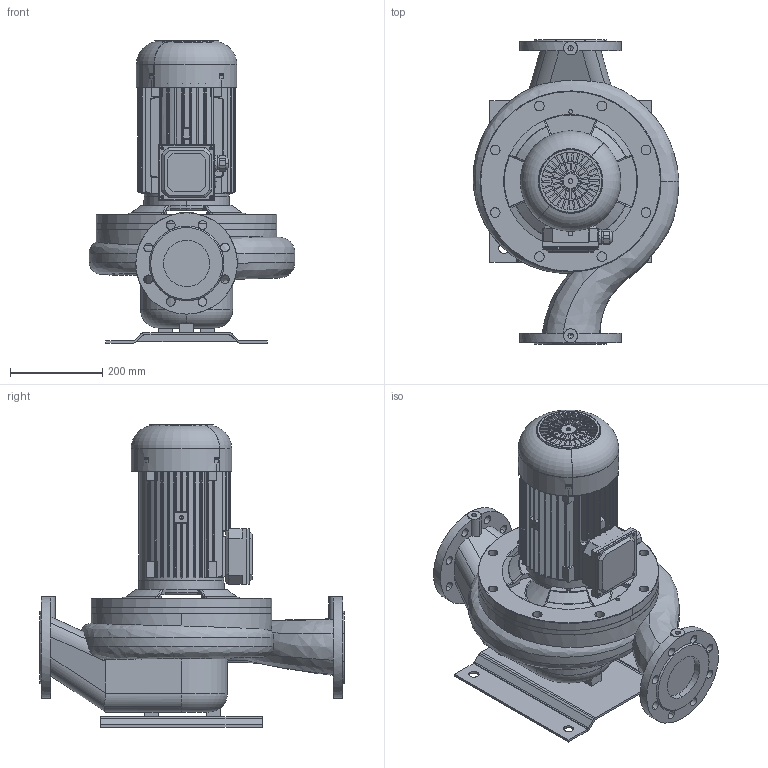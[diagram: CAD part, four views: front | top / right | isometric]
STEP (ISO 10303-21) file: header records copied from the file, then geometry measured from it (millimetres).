
FILE_DESCRIPTION(('STEP AP214'),'1');
FILE_NAME('export.stp','2018-05-29T07:51:46',(' '),(' '),'Spatial InterOp 3D',' ',' ');
FILE_SCHEMA(('AUTOMOTIVE_DESIGN { 1 0 10303 214 1 1 1 1 }'));
Length unit declared in the file: millimetre
Products named in the file (17): 440017; 440016; V_MKP112_2_F31; 480018; 480017; 440018; 440021; 480022; 480020; M25_Blind_Plug; M25_tiivisteholkk; W_L100S4400KP112; V_TLL100SAL1202; V_PPL100S; P100496; P100495; P100342
Assembly tree (17 placements, depth 4):
  W_L100S4400KP112
    V_MKP112_2_F31
      440017
        440016
      480018
        480017
      440018
      440021
      480022
      480020
      M25_Blind_Plug
      M25_tiivisteholkk
    V_TLL100SAL1202
    V_PPL100S
    P100496
      P100495  x2
      P100342
Bounding box: 446.61 x 660 x 655.9 mm (x, y, z)
Volume: 25838383.8 mm3; surface area: 2564658.8 mm2
Topology: 13 solids, 13 shells, 1650 faces, 4662 edges, 3060 vertices
Faces by surface type: cylinder 804, plane 554, cone 140, torus 117, bspline 35
Entity records: 67260 total; most frequent: CARTESIAN_POINT 20972, ORIENTED_EDGE 9272, DIRECTION 8918, EDGE_CURVE 4636, AXIS2_PLACEMENT_3D 3412, VERTEX_POINT 3052, LINE 2094, VECTOR 2094
